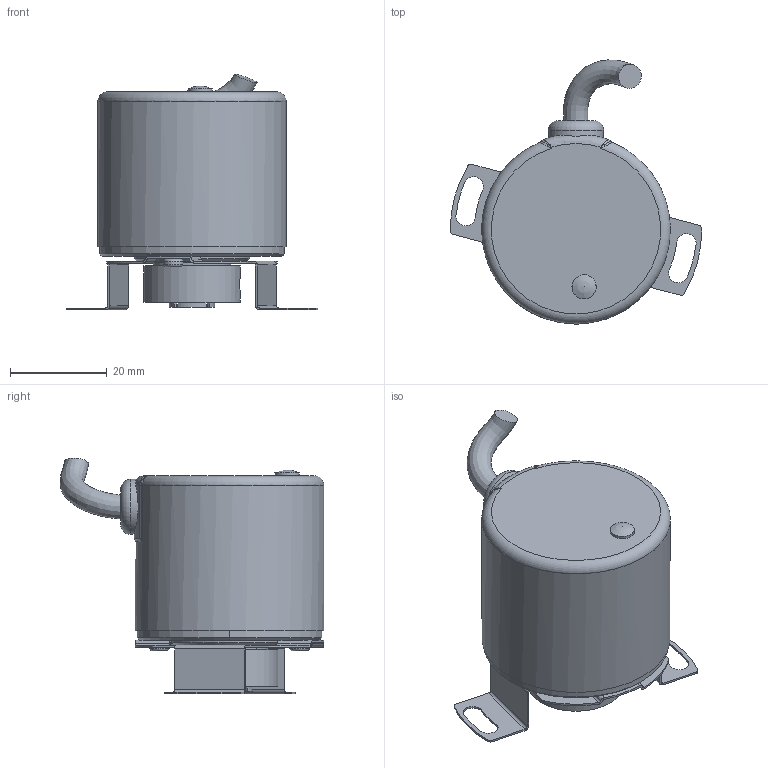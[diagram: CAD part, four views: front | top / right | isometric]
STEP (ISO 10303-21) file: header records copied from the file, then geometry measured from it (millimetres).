
FILE_DESCRIPTION(/* description */ (''),/* implementation_level */ '2;1');
FILE_NAME(/* name */ 'IP54 BRT38-8MM抱箍_stp.stp',/* time_stamp */ '2024-06-13T10:31:10+08:00',/* author */ (''),/* organization */ (''),/* preprocessor_version */ 'ST-DEVELOPER v16.7',/* originating_system */ 'SIEMENS PLM Software NX 12.0',/* authorisation */ '');
FILE_SCHEMA (('AP203_CONFIGURATION_CONTROLLED_3D_DESIGN_OF_MECHANICAL_PARTS_AND_ASSEMBLIES_MIM_LF { 1 0 10303 403 2 1 2}'));
Length unit declared in the file: millimetre
Products named in the file (1): Li Y502C912Ezxew
Bounding box: 52 x 54.54 x 48.78 mm (x, y, z)
Volume: 18898.6 mm3; surface area: 20620.3 mm2
Topology: 10 solids, 10 shells, 241 faces, 607 edges, 398 vertices
Faces by surface type: cylinder 124, plane 89, bspline 11, torus 9, cone 7, sphere 1
Full cylindrical faces by diameter (mm): 4.021 x2, 5 x1, 5.5 x1, 11.405 x1, 14.789 x1, 23.9 x1, 37 x1, 39 x1
Entity records: 9086 total; most frequent: CARTESIAN_POINT 2727, DIRECTION 1194, ORIENTED_EDGE 1156, EDGE_CURVE 578, AXIS2_PLACEMENT_3D 467, VERTEX_POINT 389, EDGE_LOOP 288, LINE 260
